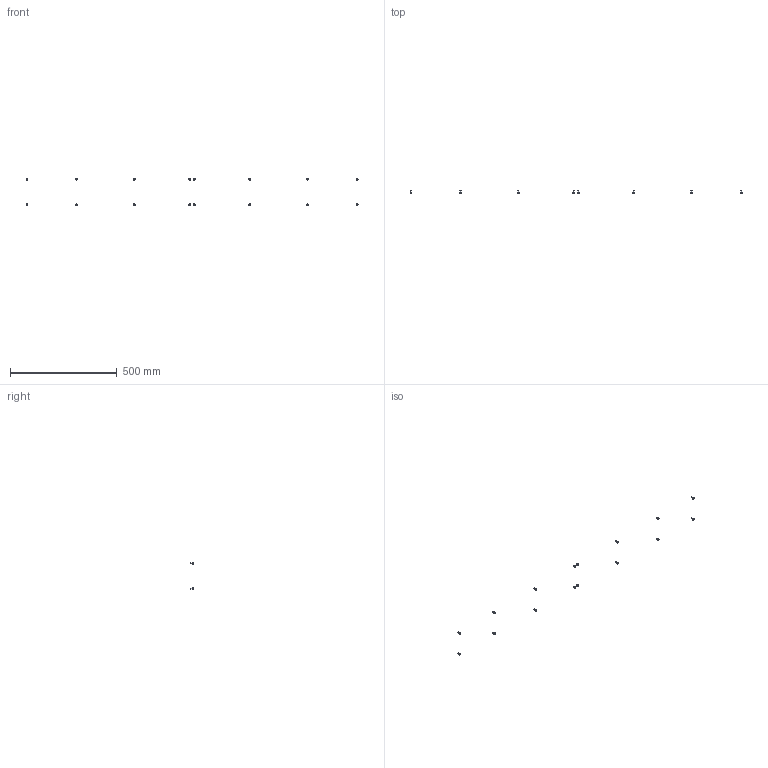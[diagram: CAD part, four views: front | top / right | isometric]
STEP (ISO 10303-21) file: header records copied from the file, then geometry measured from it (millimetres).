
FILE_DESCRIPTION(/* description */ (''),/* implementation_level */ '2;1');
FILE_NAME(/* name */ '13.door-panels#13.1#CB5-8',/* time_stamp */ '2014-12-01T20:19:43+01:00',/* author */ (''),/* organization */ (''),/* preprocessor_version */ 'ST-DEVELOPER v14',/* originating_system */ '',/* authorisation */ '');
FILE_SCHEMA (('AUTOMOTIVE_DESIGN'));
Length unit declared in the file: millimetre
Products named in the file (2): Document; screw DIN912-like, M5x08
Assembly tree (8 placements, depth 2):
  Document
    screw DIN912-like, M5x08  x8
Bounding box: 1552.5 x 13 x 128.49 mm (x, y, z)
Volume: 6387.6 mm3; surface area: 6320.3 mm2
Topology: 16 solids, 16 shells, 400 faces, 896 edges, 528 vertices
Faces by surface type: plane 240, bspline 160
Entity records: 12309 total; most frequent: CARTESIAN_POINT 5663, B_SPLINE_CURVE_WITH_KNOTS 1134, ORIENTED_EDGE 972, PCURVE 972, DEFINITIONAL_REPRESENTATION 972, SURFACE_CURVE 486, EDGE_CURVE 486, VERTEX_POINT 297
